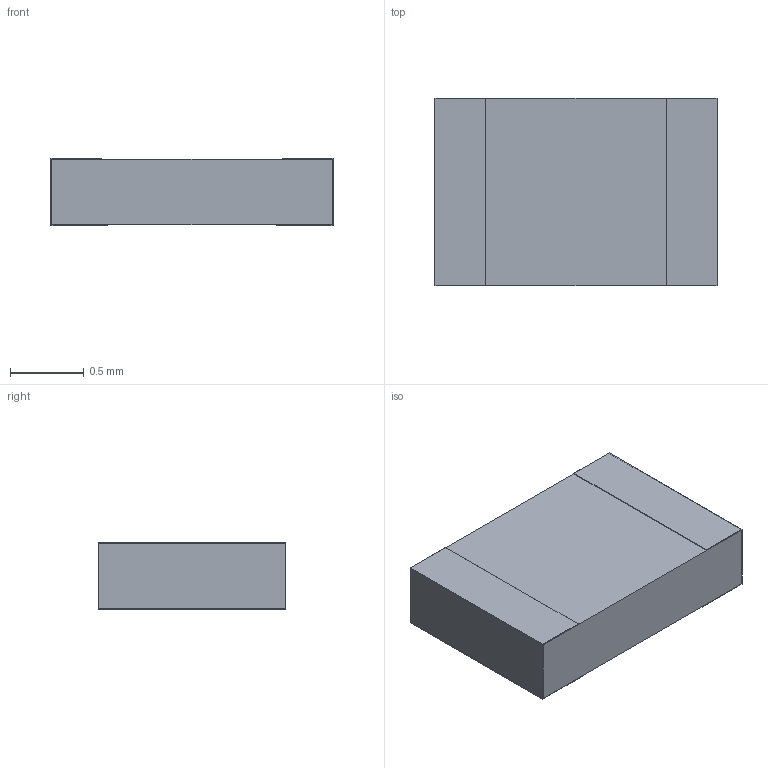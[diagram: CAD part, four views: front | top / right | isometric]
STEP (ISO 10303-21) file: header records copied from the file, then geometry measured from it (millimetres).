
FILE_DESCRIPTION(/* description */ (''),/* implementation_level */ '2;1');
FILE_NAME(/* name */ 'S:\DOCUMENT\AUTOCAD\3D_Modèles\10_3D-pour-VISHAY-COM\01_FICHIERS_ZIP_MARKETING\C4\CHPHR0805_B-or-G.stp',/* time_stamp */ '2018-01-23T13:59:04+01:00',/* author */ ('dparmentier'),/* organization */ ('unknown'),/* preprocessor_version */ 'ST-DEVELOPER v17',/* originating_system */ 'Autodesk Inventor 2018',/* authorisation */ '');
FILE_SCHEMA (('AUTOMOTIVE_DESIGN { 1 0 10303 214 3 1 1 }'));
Length unit declared in the file: millimetre
Products named in the file (1): CHPHR0805_B-or-G
Bounding box: 1.91 x 1.27 x 0.46 mm (x, y, z)
Volume: 1.1 mm3; surface area: 13.6 mm2
Topology: 3 solids, 3 shells, 26 faces, 60 edges, 40 vertices
Faces by surface type: plane 26
Entity records: 775 total; most frequent: CARTESIAN_POINT 127, ORIENTED_EDGE 120, DIRECTION 114, LINE 60, VECTOR 60, EDGE_CURVE 60, VERTEX_POINT 40, AXIS2_PLACEMENT_3D 27
